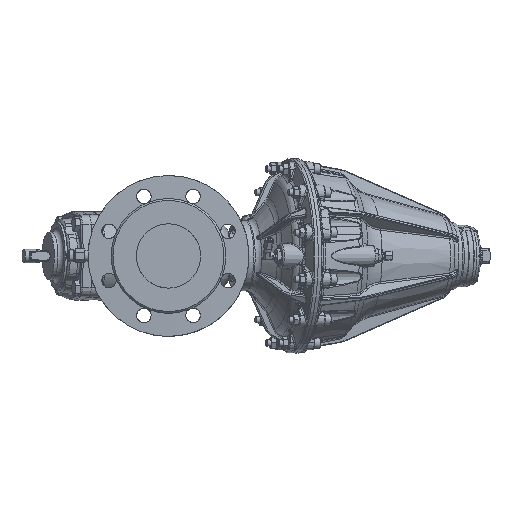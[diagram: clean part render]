
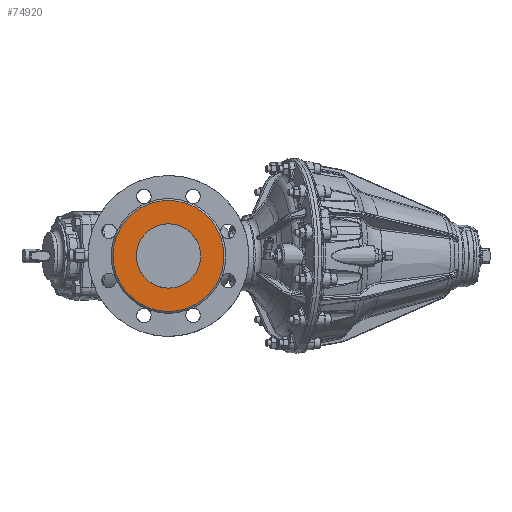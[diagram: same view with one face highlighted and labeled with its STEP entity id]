
A CAD part, left-side view. The second image highlights one B-rep face of the part: STEP entity #74920.
In plain terms, the highlighted planar face has unit normal (-1, 0, 0).
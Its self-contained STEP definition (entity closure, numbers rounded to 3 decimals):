
#53161 = AXIS2_PLACEMENT_3D ( 'NONE', #53201, #53200, #53199 ) ;
#53199 = DIRECTION ( 'NONE',  ( 0., 0., 1. ) ) ;
#53200 = DIRECTION ( 'NONE',  ( -1., 0., 0. ) ) ;
#53201 = CARTESIAN_POINT ( 'NONE',  ( -147., 0., 0. ) ) ;
#53205 = CIRCLE ( 'NONE', #53161, 40. ) ;
#54538 = DIRECTION ( 'NONE',  ( 0., 0., 1. ) ) ;
#54539 = DIRECTION ( 'NONE',  ( -1., 0., 0. ) ) ;
#54540 = CARTESIAN_POINT ( 'NONE',  ( -147., -40., 0. ) ) ;
#54541 = AXIS2_PLACEMENT_3D ( 'NONE', #54540, #54539, #54538 ) ;
#54542 = PLANE ( 'NONE',  #54541 ) ;
#54543 = FACE_BOUND ( 'NONE', #75212, .T. ) ;
#54544 = FACE_OUTER_BOUND ( 'NONE', #74924, .T. ) ;
#55653 = DIRECTION ( 'NONE',  ( 0., 0., 1. ) ) ;
#55654 = DIRECTION ( 'NONE',  ( -1., 0., 0. ) ) ;
#55655 = CARTESIAN_POINT ( 'NONE',  ( -147., 0., 0. ) ) ;
#55656 = AXIS2_PLACEMENT_3D ( 'NONE', #55655, #55654, #55653 ) ;
#55657 = CIRCLE ( 'NONE', #55656, 69. ) ;
#64195 = CARTESIAN_POINT ( 'NONE',  ( -147., 0., 69. ) ) ;
#64200 = VERTEX_POINT ( 'NONE', #64195 ) ;
#64203 = CARTESIAN_POINT ( 'NONE',  ( -147., 0., 40. ) ) ;
#64211 = VERTEX_POINT ( 'NONE', #64203 ) ;
#74553 = EDGE_CURVE ( 'NONE', #64211, #64211, #53205, .T. ) ;
#74890 = ORIENTED_EDGE ( 'NONE', *, *, #75194, .T. ) ;
#74920 = ADVANCED_FACE ( 'NONE', ( #54544, #54543 ), #54542, .T. ) ;
#74924 = EDGE_LOOP ( 'NONE', ( #74890 ) ) ;
#75194 = EDGE_CURVE ( 'NONE', #64200, #64200, #55657, .T. ) ;
#75212 = EDGE_LOOP ( 'NONE', ( #75232 ) ) ;
#75232 = ORIENTED_EDGE ( 'NONE', *, *, #74553, .F. ) ;
